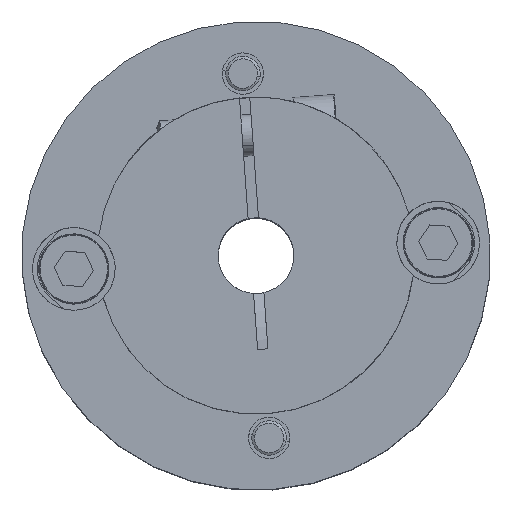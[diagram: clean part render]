
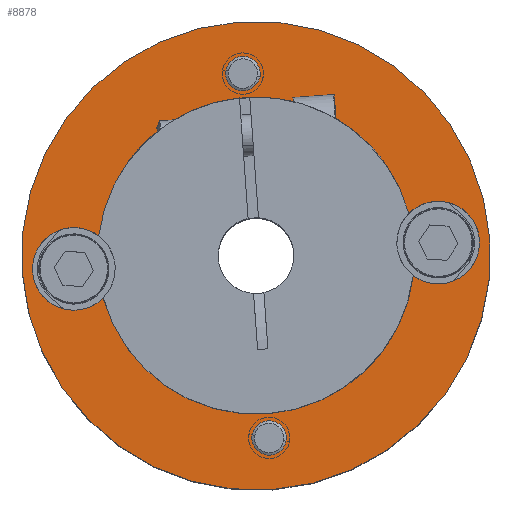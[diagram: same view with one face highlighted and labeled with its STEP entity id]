
A CAD part, top view. The second image highlights one B-rep face of the part: STEP entity #8878.
In plain terms, the highlighted planar face has unit normal (0, 0, 1).
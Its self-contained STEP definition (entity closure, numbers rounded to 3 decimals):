
#14 = CIRCLE ( 'NONE', #5710, 2.5 ) ;
#53 = DIRECTION ( 'NONE',  ( -0.997, -0.072, 0. ) ) ;
#377 = EDGE_CURVE ( 'NONE', #8031, #7020, #9618, .T. ) ;
#407 = VERTEX_POINT ( 'NONE', #8991 ) ;
#481 = ORIENTED_EDGE ( 'NONE', *, *, #16055, .F. ) ;
#1297 = DIRECTION ( 'NONE',  ( -0.997, -0.072, 0. ) ) ;
#1930 = DIRECTION ( 'NONE',  ( 0., 0., 1. ) ) ;
#2291 = FACE_BOUND ( 'NONE', #18929, .T. ) ;
#2414 = CARTESIAN_POINT ( 'NONE',  ( -34.025, 85.06, 90.727 ) ) ;
#2486 = VERTEX_POINT ( 'NONE', #13143 ) ;
#2849 = AXIS2_PLACEMENT_3D ( 'NONE', #2414, #13234, #4000 ) ;
#2858 = DIRECTION ( 'NONE',  ( 0., 0., 1. ) ) ;
#3088 = CARTESIAN_POINT ( 'NONE',  ( -7.594, 86.967, 90.727 ) ) ;
#3111 = ORIENTED_EDGE ( 'NONE', *, *, #17437, .F. ) ;
#3171 = AXIS2_PLACEMENT_3D ( 'NONE', #3536, #14293, #5143 ) ;
#3440 = EDGE_CURVE ( 'NONE', #2486, #7121, #5609, .T. ) ;
#3466 = PLANE ( 'NONE',  #3171 ) ;
#3536 = CARTESIAN_POINT ( 'NONE',  ( -7.594, 86.967, 90.727 ) ) ;
#3616 = ORIENTED_EDGE ( 'NONE', *, *, #15264, .F. ) ;
#3700 = AXIS2_PLACEMENT_3D ( 'NONE', #5375, #16051, #6952 ) ;
#3799 = AXIS2_PLACEMENT_3D ( 'NONE', #8133, #8224, #8240 ) ;
#3885 = CARTESIAN_POINT ( 'NONE',  ( 14.575, 93.095, 90.727 ) ) ;
#4000 = DIRECTION ( 'NONE',  ( -0.997, -0.072, 0. ) ) ;
#4680 = DIRECTION ( 'NONE',  ( -0.997, -0.072, 0. ) ) ;
#4841 = ORIENTED_EDGE ( 'NONE', *, *, #10039, .F. ) ;
#5143 = DIRECTION ( 'NONE',  ( -0.997, -0.072, 0. ) ) ;
#5315 = ORIENTED_EDGE ( 'NONE', *, *, #3440, .T. ) ;
#5375 = CARTESIAN_POINT ( 'NONE',  ( 18.838, 88.873, 90.727 ) ) ;
#5573 = VERTEX_POINT ( 'NONE', #16544 ) ;
#5609 = CIRCLE ( 'NONE', #16172, 34. ) ;
#5710 = AXIS2_PLACEMENT_3D ( 'NONE', #19677, #10585, #1297 ) ;
#6511 = FACE_BOUND ( 'NONE', #14861, .T. ) ;
#6540 = EDGE_LOOP ( 'NONE', ( #16813, #5315 ) ) ;
#6692 = DIRECTION ( 'NONE',  ( 0., 0., 1. ) ) ;
#6790 = CARTESIAN_POINT ( 'NONE',  ( -5.687, 60.535, 90.727 ) ) ;
#6816 = EDGE_CURVE ( 'NONE', #12760, #407, #9524, .T. ) ;
#6952 = DIRECTION ( 'NONE',  ( -0.997, -0.072, 0. ) ) ;
#7020 = VERTEX_POINT ( 'NONE', #8551 ) ;
#7072 = ORIENTED_EDGE ( 'NONE', *, *, #377, .F. ) ;
#7121 = VERTEX_POINT ( 'NONE', #16377 ) ;
#8031 = VERTEX_POINT ( 'NONE', #10758 ) ;
#8133 = CARTESIAN_POINT ( 'NONE',  ( -5.687, 60.535, 90.727 ) ) ;
#8224 = DIRECTION ( 'NONE',  ( 0., 0., 1. ) ) ;
#8240 = DIRECTION ( 'NONE',  ( -0.997, -0.072, 0. ) ) ;
#8339 = DIRECTION ( 'NONE',  ( -0.997, -0.072, 0. ) ) ;
#8551 = CARTESIAN_POINT ( 'NONE',  ( -3.194, 60.715, 90.727 ) ) ;
#8767 = DIRECTION ( 'NONE',  ( 0., 0., 1. ) ) ;
#8848 = AXIS2_PLACEMENT_3D ( 'NONE', #3088, #13858, #4680 ) ;
#8878 = ADVANCED_FACE ( 'NONE', ( #14579, #6511, #2291, #18162 ), #3466, .T. ) ;
#8991 = CARTESIAN_POINT ( 'NONE',  ( -40.009, 84.629, 90.727 ) ) ;
#9190 = EDGE_LOOP ( 'NONE', ( #7072, #19666 ) ) ;
#9360 = DIRECTION ( 'NONE',  ( 0., 0., 1. ) ) ;
#9371 = AXIS2_PLACEMENT_3D ( 'NONE', #18446, #9360, #53 ) ;
#9524 = CIRCLE ( 'NONE', #12723, 6. ) ;
#9560 = EDGE_CURVE ( 'NONE', #7020, #8031, #14755, .T. ) ;
#9618 = CIRCLE ( 'NONE', #3799, 2.5 ) ;
#9633 = CARTESIAN_POINT ( 'NONE',  ( 24.822, 89.305, 90.727 ) ) ;
#9832 = CIRCLE ( 'NONE', #18826, 23. ) ;
#9950 = ORIENTED_EDGE ( 'NONE', *, *, #19493, .F. ) ;
#10039 = EDGE_CURVE ( 'NONE', #13202, #12760, #15943, .T. ) ;
#10158 = CARTESIAN_POINT ( 'NONE',  ( -7.006, 113.578, 90.727 ) ) ;
#10585 = DIRECTION ( 'NONE',  ( 0., 0., 1. ) ) ;
#10599 = CARTESIAN_POINT ( 'NONE',  ( -30.412, 89.851, 90.727 ) ) ;
#10758 = CARTESIAN_POINT ( 'NONE',  ( -8.181, 60.355, 90.727 ) ) ;
#11209 = CARTESIAN_POINT ( 'NONE',  ( -7.594, 86.967, 90.727 ) ) ;
#11371 = ORIENTED_EDGE ( 'NONE', *, *, #16830, .F. ) ;
#11439 = CIRCLE ( 'NONE', #3700, 6. ) ;
#12069 = ORIENTED_EDGE ( 'NONE', *, *, #6816, .F. ) ;
#12140 = CARTESIAN_POINT ( 'NONE',  ( 18.838, 88.873, 90.727 ) ) ;
#12510 = VERTEX_POINT ( 'NONE', #10158 ) ;
#12723 = AXIS2_PLACEMENT_3D ( 'NONE', #15773, #6692, #17314 ) ;
#12728 = DIRECTION ( 'NONE',  ( -0.997, -0.072, 0. ) ) ;
#12760 = VERTEX_POINT ( 'NONE', #10599 ) ;
#13026 = AXIS2_PLACEMENT_3D ( 'NONE', #6790, #17406, #8339 ) ;
#13143 = CARTESIAN_POINT ( 'NONE',  ( -41.506, 84.521, 90.727 ) ) ;
#13202 = VERTEX_POINT ( 'NONE', #3885 ) ;
#13234 = DIRECTION ( 'NONE',  ( 0., 0., 1. ) ) ;
#13646 = DIRECTION ( 'NONE',  ( -0.997, -0.072, 0. ) ) ;
#13779 = VERTEX_POINT ( 'NONE', #9633 ) ;
#13858 = DIRECTION ( 'NONE',  ( 0., 0., 1. ) ) ;
#14129 = CIRCLE ( 'NONE', #16398, 6. ) ;
#14293 = DIRECTION ( 'NONE',  ( 0., 0., 1. ) ) ;
#14310 = CARTESIAN_POINT ( 'NONE',  ( 15.225, 84.083, 90.727 ) ) ;
#14436 = EDGE_CURVE ( 'NONE', #7121, #2486, #18834, .T. ) ;
#14579 = FACE_BOUND ( 'NONE', #9190, .T. ) ;
#14755 = CIRCLE ( 'NONE', #13026, 2.5 ) ;
#14826 = CARTESIAN_POINT ( 'NONE',  ( -11.993, 113.218, 90.727 ) ) ;
#14861 = EDGE_LOOP ( 'NONE', ( #12069, #4841, #9950, #18008, #3111, #11371 ) ) ;
#15264 = EDGE_CURVE ( 'NONE', #16611, #12510, #14, .T. ) ;
#15341 = CIRCLE ( 'NONE', #2849, 6. ) ;
#15773 = CARTESIAN_POINT ( 'NONE',  ( -34.025, 85.06, 90.727 ) ) ;
#15943 = CIRCLE ( 'NONE', #8848, 23. ) ;
#16051 = DIRECTION ( 'NONE',  ( 0., 0., 1. ) ) ;
#16055 = EDGE_CURVE ( 'NONE', #12510, #16611, #17748, .T. ) ;
#16094 = DIRECTION ( 'NONE',  ( -0.997, -0.072, 0. ) ) ;
#16154 = DIRECTION ( 'NONE',  ( 0., 0., 1. ) ) ;
#16172 = AXIS2_PLACEMENT_3D ( 'NONE', #16217, #16154, #16094 ) ;
#16217 = CARTESIAN_POINT ( 'NONE',  ( -7.594, 86.967, 90.727 ) ) ;
#16322 = VERTEX_POINT ( 'NONE', #14310 ) ;
#16377 = CARTESIAN_POINT ( 'NONE',  ( 26.318, 89.412, 90.727 ) ) ;
#16398 = AXIS2_PLACEMENT_3D ( 'NONE', #12140, #2858, #13646 ) ;
#16544 = CARTESIAN_POINT ( 'NONE',  ( -29.762, 80.838, 90.727 ) ) ;
#16564 = AXIS2_PLACEMENT_3D ( 'NONE', #11209, #1930, #12728 ) ;
#16611 = VERTEX_POINT ( 'NONE', #14826 ) ;
#16813 = ORIENTED_EDGE ( 'NONE', *, *, #14436, .T. ) ;
#16830 = EDGE_CURVE ( 'NONE', #407, #5573, #15341, .T. ) ;
#17314 = DIRECTION ( 'NONE',  ( -0.997, -0.072, 0. ) ) ;
#17406 = DIRECTION ( 'NONE',  ( 0., 0., 1. ) ) ;
#17437 = EDGE_CURVE ( 'NONE', #5573, #16322, #9832, .T. ) ;
#17615 = EDGE_CURVE ( 'NONE', #16322, #13779, #14129, .T. ) ;
#17748 = CIRCLE ( 'NONE', #9371, 2.5 ) ;
#17844 = CARTESIAN_POINT ( 'NONE',  ( -7.594, 86.967, 90.727 ) ) ;
#18008 = ORIENTED_EDGE ( 'NONE', *, *, #17615, .F. ) ;
#18162 = FACE_OUTER_BOUND ( 'NONE', #6540, .T. ) ;
#18446 = CARTESIAN_POINT ( 'NONE',  ( -9.5, 113.398, 90.727 ) ) ;
#18826 = AXIS2_PLACEMENT_3D ( 'NONE', #17844, #8767, #19368 ) ;
#18834 = CIRCLE ( 'NONE', #16564, 34. ) ;
#18929 = EDGE_LOOP ( 'NONE', ( #3616, #481 ) ) ;
#19368 = DIRECTION ( 'NONE',  ( -0.997, -0.072, 0. ) ) ;
#19493 = EDGE_CURVE ( 'NONE', #13779, #13202, #11439, .T. ) ;
#19666 = ORIENTED_EDGE ( 'NONE', *, *, #9560, .F. ) ;
#19677 = CARTESIAN_POINT ( 'NONE',  ( -9.5, 113.398, 90.727 ) ) ;
